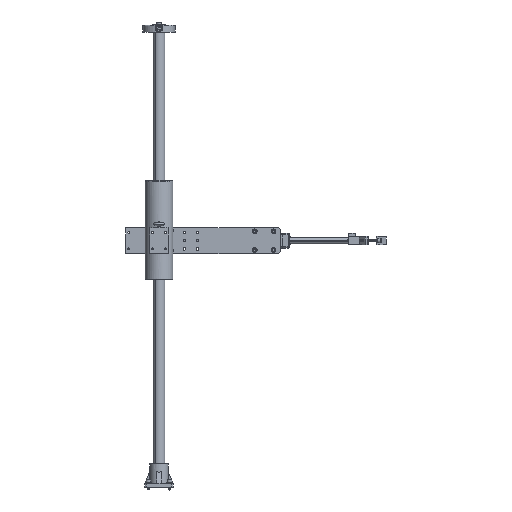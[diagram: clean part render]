
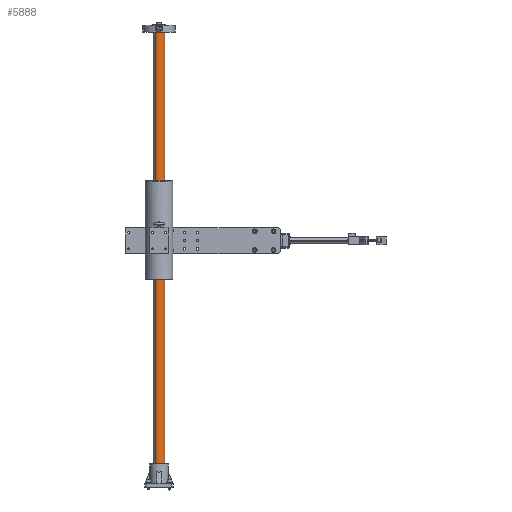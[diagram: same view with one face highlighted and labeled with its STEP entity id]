
A CAD part, top view. The second image highlights one B-rep face of the part: STEP entity #5888.
In plain terms, the highlighted cylindrical face has radius 12.5 mm (diameter 25 mm), a partial arc.
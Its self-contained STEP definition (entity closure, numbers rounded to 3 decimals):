
#2120 = CARTESIAN_POINT ( 'NONE',  ( 0., 980., 0. ) ) ;
#4974 = CIRCLE ( 'NONE', #30729, 12.5 ) ;
#5874 = DIRECTION ( 'NONE',  ( -0.586, 0., 0.811 ) ) ;
#5888 = ADVANCED_FACE ( 'NONE', ( #43749 ), #40207, .T. ) ;
#8079 = DIRECTION ( 'NONE',  ( 0.586, 0., -0.811 ) ) ;
#8898 = CARTESIAN_POINT ( 'NONE',  ( -7.32, 2., 10.133 ) ) ;
#8945 = CARTESIAN_POINT ( 'NONE',  ( 7.32, 2., -10.133 ) ) ;
#10519 = ORIENTED_EDGE ( 'NONE', *, *, #17592, .T. ) ;
#10872 = ORIENTED_EDGE ( 'NONE', *, *, #42036, .T. ) ;
#11814 = EDGE_CURVE ( 'NONE', #19654, #13532, #15505, .T. ) ;
#11962 = VERTEX_POINT ( 'NONE', #20665 ) ;
#13012 = DIRECTION ( 'NONE',  ( 0., -1., 0. ) ) ;
#13411 = LINE ( 'NONE', #35570, #33474 ) ;
#13532 = VERTEX_POINT ( 'NONE', #8945 ) ;
#15487 = DIRECTION ( 'NONE',  ( 0., -1., 0. ) ) ;
#15505 = CIRCLE ( 'NONE', #46283, 12.5 ) ;
#16221 = CARTESIAN_POINT ( 'NONE',  ( 0., 2., 0. ) ) ;
#16533 = ORIENTED_EDGE ( 'NONE', *, *, #40567, .F. ) ;
#17254 = DIRECTION ( 'NONE',  ( 0., -1., 0. ) ) ;
#17592 = EDGE_CURVE ( 'NONE', #35631, #19654, #13411, .T. ) ;
#19439 = LINE ( 'NONE', #39814, #47207 ) ;
#19654 = VERTEX_POINT ( 'NONE', #8898 ) ;
#20011 = DIRECTION ( 'NONE',  ( -0.586, 0., 0.811 ) ) ;
#20665 = CARTESIAN_POINT ( 'NONE',  ( 7.32, 980., -10.133 ) ) ;
#24308 = CARTESIAN_POINT ( 'NONE',  ( -7.32, 980., 10.133 ) ) ;
#24823 = EDGE_LOOP ( 'NONE', ( #10872, #10519, #40344, #16533 ) ) ;
#25788 = AXIS2_PLACEMENT_3D ( 'NONE', #41850, #15487, #8079 ) ;
#28436 = DIRECTION ( 'NONE',  ( 0., -1., 0. ) ) ;
#30729 = AXIS2_PLACEMENT_3D ( 'NONE', #2120, #28436, #5874 ) ;
#33474 = VECTOR ( 'NONE', #13012, 1000. ) ;
#35570 = CARTESIAN_POINT ( 'NONE',  ( -7.32, 981., 10.133 ) ) ;
#35631 = VERTEX_POINT ( 'NONE', #24308 ) ;
#39814 = CARTESIAN_POINT ( 'NONE',  ( 7.32, 981., -10.133 ) ) ;
#40207 = CYLINDRICAL_SURFACE ( 'NONE', #25788, 12.5 ) ;
#40344 = ORIENTED_EDGE ( 'NONE', *, *, #11814, .T. ) ;
#40567 = EDGE_CURVE ( 'NONE', #11962, #13532, #19439, .T. ) ;
#41850 = CARTESIAN_POINT ( 'NONE',  ( 0., 981., 0. ) ) ;
#42036 = EDGE_CURVE ( 'NONE', #11962, #35631, #4974, .T. ) ;
#42587 = DIRECTION ( 'NONE',  ( 0., 1., 0. ) ) ;
#43749 = FACE_OUTER_BOUND ( 'NONE', #24823, .T. ) ;
#46283 = AXIS2_PLACEMENT_3D ( 'NONE', #16221, #42587, #20011 ) ;
#47207 = VECTOR ( 'NONE', #17254, 1000. ) ;
